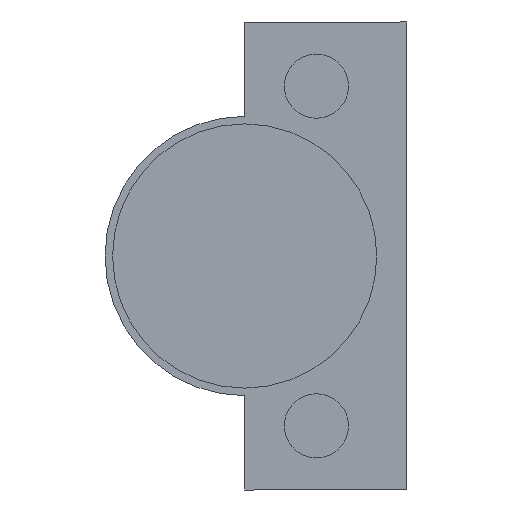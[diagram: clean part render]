
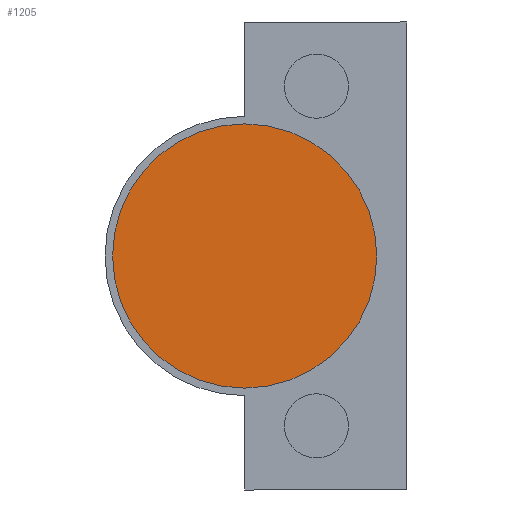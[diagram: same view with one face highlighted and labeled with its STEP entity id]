
A CAD part, front view. The second image highlights one B-rep face of the part: STEP entity #1205.
In plain terms, the highlighted planar face has unit normal (0, -1, 0).
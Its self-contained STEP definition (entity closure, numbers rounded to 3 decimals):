
#58 = AXIS2_PLACEMENT_3D ( 'NONE', #825, #1202, #1580 ) ;
#107 = PLANE ( 'NONE',  #422 ) ;
#123 = DIRECTION ( 'NONE',  ( 0., -1., 0. ) ) ;
#141 = VERTEX_POINT ( 'NONE', #156 ) ;
#156 = CARTESIAN_POINT ( 'NONE',  ( 23., -51.1, 0. ) ) ;
#231 = DIRECTION ( 'NONE',  ( 1., 0., 0. ) ) ;
#342 = DIRECTION ( 'NONE',  ( 0., -1., 0. ) ) ;
#381 = ORIENTED_EDGE ( 'NONE', *, *, #1367, .T. ) ;
#422 = AXIS2_PLACEMENT_3D ( 'NONE', #836, #342, #231 ) ;
#444 = VERTEX_POINT ( 'NONE', #1434 ) ;
#475 = CIRCLE ( 'NONE', #882, 17.5 ) ;
#507 = DIRECTION ( 'NONE',  ( 1., 0., 0. ) ) ;
#612 = CARTESIAN_POINT ( 'NONE',  ( 5.5, -51.1, 0. ) ) ;
#614 = EDGE_CURVE ( 'NONE', #444, #141, #975, .T. ) ;
#790 = EDGE_LOOP ( 'NONE', ( #1487, #381 ) ) ;
#825 = CARTESIAN_POINT ( 'NONE',  ( 5.5, -51.1, 0. ) ) ;
#836 = CARTESIAN_POINT ( 'NONE',  ( 5.5, -51.1, 0. ) ) ;
#882 = AXIS2_PLACEMENT_3D ( 'NONE', #612, #123, #507 ) ;
#974 = FACE_OUTER_BOUND ( 'NONE', #790, .T. ) ;
#975 = CIRCLE ( 'NONE', #58, 17.5 ) ;
#1202 = DIRECTION ( 'NONE',  ( 0., -1., 0. ) ) ;
#1205 = ADVANCED_FACE ( 'NONE', ( #974 ), #107, .T. ) ;
#1367 = EDGE_CURVE ( 'NONE', #141, #444, #475, .T. ) ;
#1434 = CARTESIAN_POINT ( 'NONE',  ( -12., -51.1, 0. ) ) ;
#1487 = ORIENTED_EDGE ( 'NONE', *, *, #614, .T. ) ;
#1580 = DIRECTION ( 'NONE',  ( 1., 0., 0. ) ) ;
